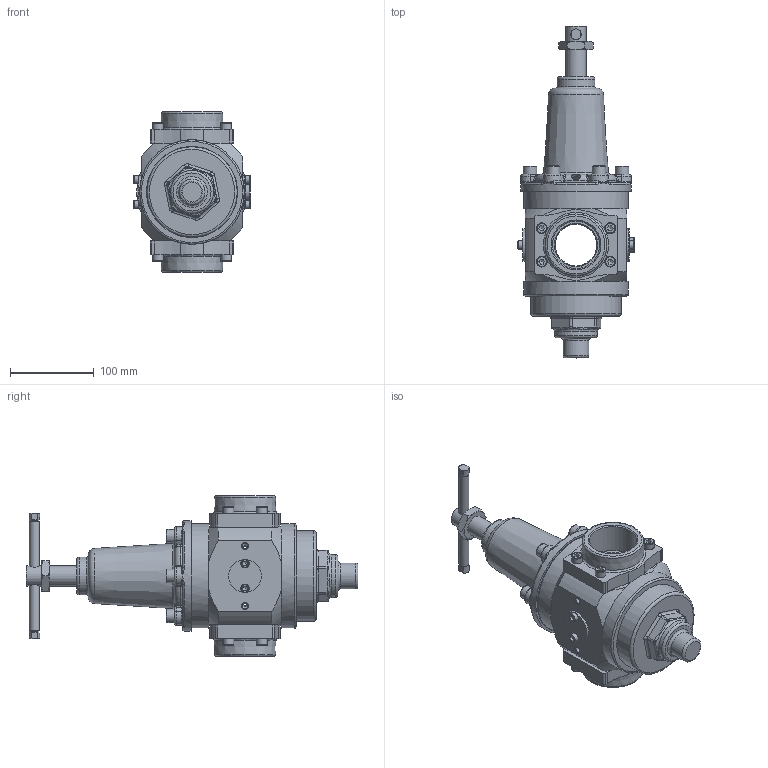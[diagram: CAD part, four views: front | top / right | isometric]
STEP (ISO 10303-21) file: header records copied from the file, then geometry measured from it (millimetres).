
FILE_DESCRIPTION((''),'2;1');
FILE_NAME('\\PC050\Users\MLazzarato\Desktop\NUOVO LISTINO\Materiale Aircom\STEP\2130\2130_9.stp','2016-12-01T13:56:28',('lucapalazzi'),(''),'Autodesk Inventor 2010','Autodesk Inventor 2010','');
FILE_SCHEMA(('AUTOMOTIVE_DESIGN { 1 0 10303 214 1 1 1 1 }'));
Length unit declared in the file: millimetre
Products named in the file (46): C01367 (Livello di dettaglio1); C43007; 18541; Perno vite regolazione R130; UNI 5589 M24 x 2; P21037; P21037_1; P38035; P20598; Molla di compressione1; P32011; P27042010304; P37095; P55006; P45016; P25015; P32012010304; P41040; P24023; Molla di compressione; Molla di compressione1_1; P34088; C22078; P22048; C22078 - O Ring R28; P37013; 0DC10515; 0DC10515_1; 0DC10515_2; 0DC10515_3; 0DC10515_4; 0DC10515_5; 0DC10515_6; 0DC10515_7; 0DC10410; 0DC10410_1; 0DC10410_2; 0DC10410_3; P37096; P33027010304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
Assembly tree (46 placements, depth 4):
  C01367 (Livello di dettaglio1)
    C43007
      18541
      Perno vite regolazione R130
      UNI 5589 M24 x 2
    P21037
      P21037_1
      P38035
    P20598
    Molla di compressione1
    P32011
    P27042010304
    P37095
    P55006
    P45016
    P25015
    P32012010304
    P41040
    P24023
      Molla di compressione
        Molla di compressione1_1
    P34088
    C22078
      P22048
      C22078 - O Ring R28
    P37013  x2
    0DC10515
    0DC10515_1
    0DC10515_2
    0DC10515_3
    0DC10515_4
    0DC10515_5
    0DC10515_6
    0DC10515_7
    0DC10410
    0DC10410_1
    0DC10410_2
    0DC10410_3
    P37096
    P33027010304
    0DC20613
    0DC20613_1
    0DC20613_2
    0DC20613_3
    0DC20613_4
    0DC20613_5
Bounding box: 139 x 396.99 x 192 mm (x, y, z)
Volume: 894327.1 mm3; surface area: 346239 mm2
Topology: 29 solids, 29 shells, 825 faces, 1993 edges, 1215 vertices
Faces by surface type: plane 280, cylinder 201, bspline 166, cone 126, torus 52
Full cylindrical faces by diameter (mm): 4.917 x2, 6 x4, 6.5 x1, 6.647 x6, 8 x8, 10 x11, 11 x6, 12 x1, 13 x8, 16 x6, 17.8 x2, 17.9 x1, 18 x1, 21 x1, 22 x1, 24 x1, 30 x2, 31 x1, 39 x2, 44.633 x1, 45 x1, 51.5 x1, 54 x1, 59.7 x1, 61.5 x2, 67.2 x2, 106.834 x1, 108 x1, 109 x1, 115.338 x1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
Entity records: 27980 total; most frequent: CARTESIAN_POINT 10945, DIRECTION 3194, ORIENTED_EDGE 3126, EDGE_CURVE 1563, AXIS2_PLACEMENT_3D 1368, EDGE_LOOP 1127, VERTEX_POINT 1072, FACE_OUTER_BOUND 792
